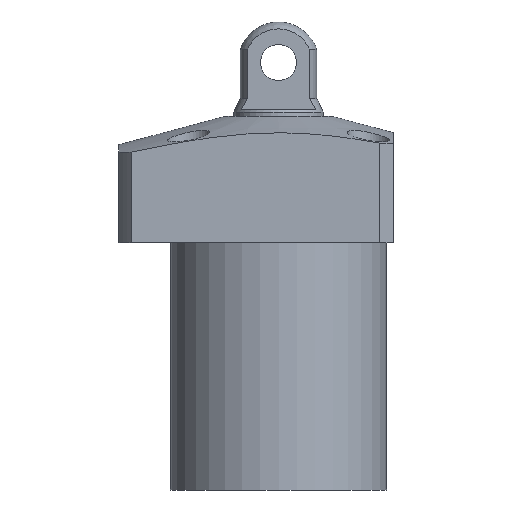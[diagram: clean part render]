
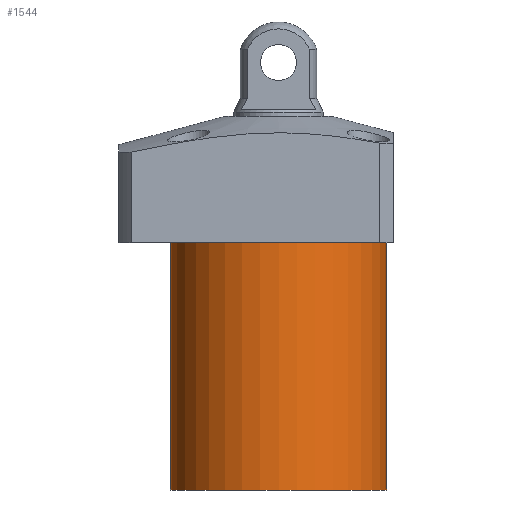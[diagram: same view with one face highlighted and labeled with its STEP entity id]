
A CAD part, front view. The second image highlights one B-rep face of the part: STEP entity #1544.
In plain terms, the highlighted cylindrical face has radius 24 mm (diameter 48 mm), a partial arc.
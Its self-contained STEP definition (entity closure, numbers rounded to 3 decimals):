
#7 = EDGE_CURVE ( 'NONE', #194, #764, #1594, .T. ) ;
#76 = ORIENTED_EDGE ( 'NONE', *, *, #1352, .F. ) ;
#122 = FACE_OUTER_BOUND ( 'NONE', #157, .T. ) ;
#157 = EDGE_LOOP ( 'NONE', ( #76, #1564, #422, #941 ) ) ;
#194 = VERTEX_POINT ( 'NONE', #1320 ) ;
#197 = DIRECTION ( 'NONE',  ( 0., 0., 1. ) ) ;
#238 = CIRCLE ( 'NONE', #1663, 24. ) ;
#248 = DIRECTION ( 'NONE',  ( 0., 0., -1. ) ) ;
#295 = CARTESIAN_POINT ( 'NONE',  ( 24., 0., -14. ) ) ;
#324 = AXIS2_PLACEMENT_3D ( 'NONE', #1254, #197, #1458 ) ;
#362 = CARTESIAN_POINT ( 'NONE',  ( 24., 0., -69. ) ) ;
#364 = CARTESIAN_POINT ( 'NONE',  ( 0., 0., -14. ) ) ;
#379 = DIRECTION ( 'NONE',  ( 0., 0., -1. ) ) ;
#405 = LINE ( 'NONE', #647, #1073 ) ;
#422 = ORIENTED_EDGE ( 'NONE', *, *, #7, .T. ) ;
#608 = DIRECTION ( 'NONE',  ( -1., 0., 0. ) ) ;
#647 = CARTESIAN_POINT ( 'NONE',  ( -24., 0., -69. ) ) ;
#764 = VERTEX_POINT ( 'NONE', #295 ) ;
#858 = VERTEX_POINT ( 'NONE', #2161 ) ;
#941 = ORIENTED_EDGE ( 'NONE', *, *, #1499, .T. ) ;
#973 = CARTESIAN_POINT ( 'NONE',  ( -24., 0., -69. ) ) ;
#1073 = VECTOR ( 'NONE', #2115, 1000. ) ;
#1150 = EDGE_CURVE ( 'NONE', #194, #1753, #2070, .T. ) ;
#1234 = VECTOR ( 'NONE', #1826, 1000. ) ;
#1254 = CARTESIAN_POINT ( 'NONE',  ( 0., 0., -69. ) ) ;
#1320 = CARTESIAN_POINT ( 'NONE',  ( 24., 0., -69. ) ) ;
#1341 = CARTESIAN_POINT ( 'NONE',  ( 0., 0., -69. ) ) ;
#1352 = EDGE_CURVE ( 'NONE', #1753, #858, #405, .T. ) ;
#1458 = DIRECTION ( 'NONE',  ( 1., 0., 0. ) ) ;
#1499 = EDGE_CURVE ( 'NONE', #764, #858, #238, .T. ) ;
#1544 = ADVANCED_FACE ( 'NONE', ( #122 ), #2000, .T. ) ;
#1564 = ORIENTED_EDGE ( 'NONE', *, *, #1150, .F. ) ;
#1594 = LINE ( 'NONE', #362, #1234 ) ;
#1663 = AXIS2_PLACEMENT_3D ( 'NONE', #364, #379, #1819 ) ;
#1753 = VERTEX_POINT ( 'NONE', #973 ) ;
#1819 = DIRECTION ( 'NONE',  ( 1., 0., 0. ) ) ;
#1826 = DIRECTION ( 'NONE',  ( 0., 0., 1. ) ) ;
#1851 = AXIS2_PLACEMENT_3D ( 'NONE', #1341, #248, #608 ) ;
#2000 = CYLINDRICAL_SURFACE ( 'NONE', #324, 24. ) ;
#2070 = CIRCLE ( 'NONE', #1851, 24. ) ;
#2115 = DIRECTION ( 'NONE',  ( 0., 0., 1. ) ) ;
#2161 = CARTESIAN_POINT ( 'NONE',  ( -24., 0., -14. ) ) ;
